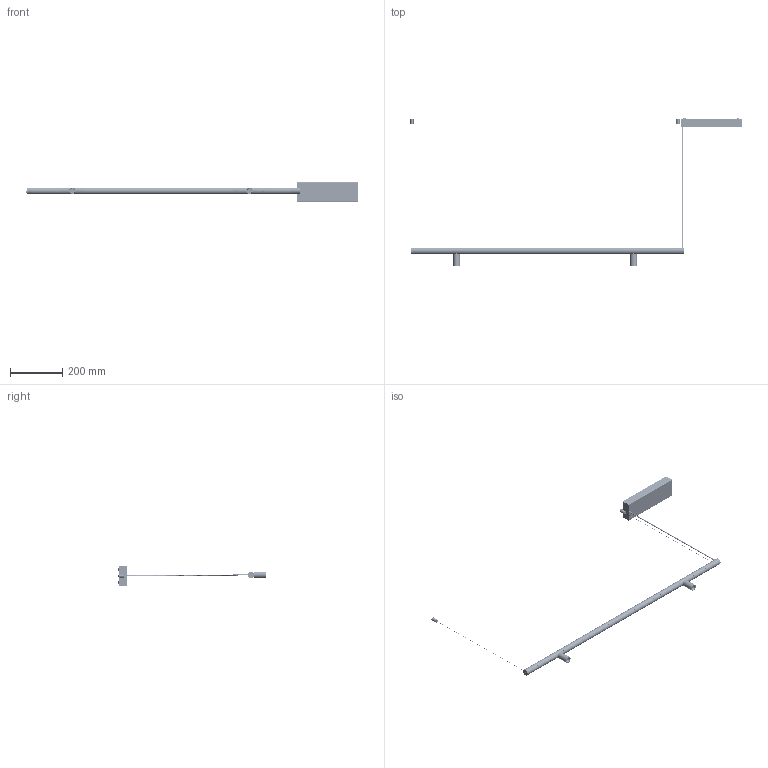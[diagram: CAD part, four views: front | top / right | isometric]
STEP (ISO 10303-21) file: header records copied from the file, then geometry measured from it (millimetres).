
FILE_DESCRIPTION (( 'STEP AP214' ), '1' );
FILE_NAME ('OVAL SPOT 10 sup.STEP', '2024-03-15T08:39:01', ( '' ), ( '' ), 'SwSTEP 2.0', 'SolidWorks 2024', '' );
FILE_SCHEMA (( 'AUTOMOTIVE_DESIGN' ));
Length unit declared in the file: millimetre
Products named in the file (43): Taco Micro_Ø10 M10*5; Holder; Tuerca Hembra Conector Jack; CUI_DEVICES_PJ-005B_Ø2.5; Tapa Unión-Final V5_V5.1 Colgante Union ; Perfil Micro V4_1m; Essentra Pasamuro 498025; Taco cuerpo Micro; OVAL SPOT 10 sup; Imán_12d*5; Regulador Cable Ø0.6 (Bereta LT1007.0601); Tubo Alu. Focus 25_V3-30-09-21; Ensamble Led; 04-23DM03-Tope_Adaptador_1.3; countersunk flat head cross recess screw_din_DIN EN ISO 7046-1 - M2.5 x 6 - Z - 6N; Ensamble Tapa + Tope_Con Conector; Difusor Negro Oval_0.56m; Cable acero_0.5m; DM05-Tapa SPOT(V1.2); Driver Entity EN1689; BLX V-4 Single Array; Prisionero STEAB M4x4_8; CJ04 - ENS Foco Spot (V1.2)_V3 09-20; Chapa Floron Micro_Techo; Embellecedor Floron Micro_Micro Colgante; Kgp 100w-24V; 04-23DM01-Adaptador_Caja_DM01.3; Tija Tiny_Inyección ; 04-23DM02-Adaptador_Tapa(V1.2)_24V; Jack_Scpre; Tapa Alimentación Perfil_SCPRE; Tapa Micro V5_V5.1; CJ01-ENS_Adaptador 24V_Proyector; Ensamble Floron Superficie_Colgante; Difusor Negro Oval_0.1m; Tapon Tapa_2; Lente -115.11.HILL-20-22°-CREE; Cable_VISUAL Alimentación Micro; Boca Focus 25_ZDNTL; Conector Molex Hembra 43020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
Assembly tree (53 placements, depth 4):
  OVAL SPOT 10 sup
    Perfil Micro V4_1m
    CJ01-ENS_Adaptador 24V_Proyector  x2
      04-23DM01-Adaptador_Caja_DM01.3
      04-23DM02-Adaptador_Tapa(V1.2)_24V
      Conector Molex Hembra 43020
      Driver Entity EN1689
      04-23DM03-Tope_Adaptador_1.3
      Tija Tiny_Inyección 
    CJ04 - ENS Foco Spot (V1.2)_V3 09-20  x2
      Tubo Alu. Focus 25_V3-30-09-21
      Boca Focus 25_ZDNTL
      Ensamble Led
        BLX V-4 Single Array
        Holder
        countersunk flat head cross recess screw_din_DIN EN ISO 7046-1 - M2.5 x 6 - Z - 6N  x2
      Prisionero STEAB M4x4_8
      Lente -115.11.HILL-20-22°-CREE
      DM05-Tapa SPOT(V1.2)
    Difusor Negro Oval_0.1m  x2
    Difusor Negro Oval_0.56m
    Ensamble Tapa + Tope_Con Conector  x2
      Tapa Micro V5_V5.1
      CUI_DEVICES_PJ-005B_Ø2.5
      Tuerca Hembra Conector Jack
    Ensamble Tensor Micro_Con Cable  x2
      Taco Micro_Ø10 M10*5
      Taco cuerpo Micro
      Regulador Cable Ø0.6 (Bereta LT1007.0601)
      Cable acero_0.5m
    Tapa Unión-Final V5_V5.1 Colgante Union   x2
    Ensamble Floron Superficie_Colgante
      Kgp 100w-24V
      Embellecedor Floron Micro_Micro Colgante
      Chapa Floron Micro_Techo
      Remache 3 Cabeza CONICA_remachado  x2
      Imán_12d*5  x2
      Essentra Pasamuro 498025
    Ensamble Conector Jack Unión_Alimentación Colgante SCPRE
      Cable_VISUAL Alimentación Micro
      Jack_Scpre
      Tapa Alimentación Perfil_SCPRE
      Prisionero STEAB M4x4_8
    Tapon Tapa_2
Bounding box: 1274.44 x 567.27 x 75.27 mm (x, y, z)
Volume: 350042.5 mm3; surface area: 508529.8 mm2
Topology: 70 solids, 102 shells, 6004 faces, 16116 edges, 10376 vertices
Faces by surface type: plane 2785, cylinder 1947, bspline 547, torus 351, cone 262, sphere 112
Entity records: 162554 total; most frequent: CARTESIAN_POINT 68731, ORIENTED_EDGE 20537, DIRECTION 17735, EDGE_CURVE 10316, VERTEX_POINT 6733, VECTOR 6207, LINE 6207, AXIS2_PLACEMENT_3D 5764
